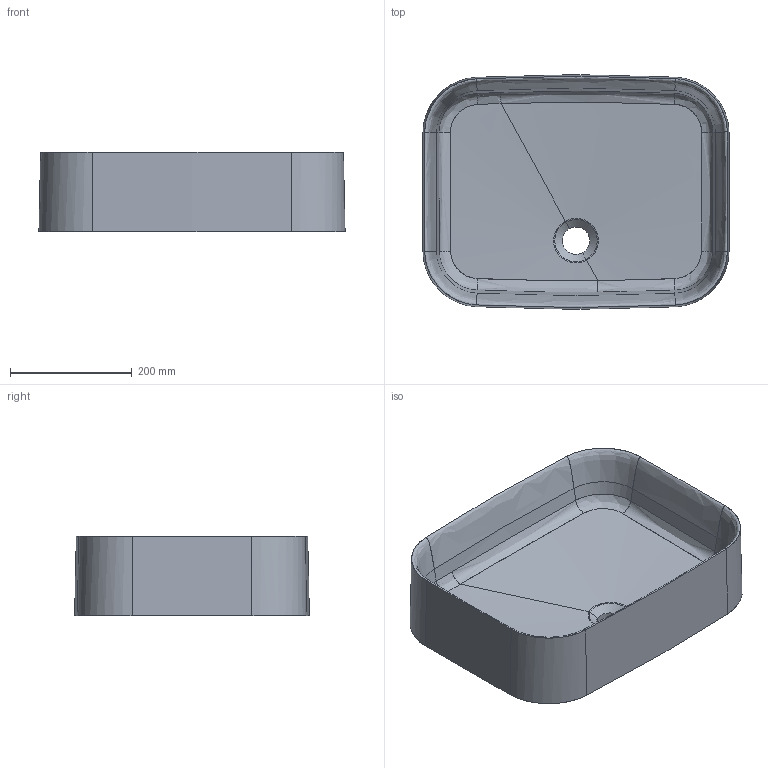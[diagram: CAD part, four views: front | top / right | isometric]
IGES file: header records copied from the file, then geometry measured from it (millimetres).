
Start section: START RECORD GO HERE.
Global section: file name: 3D ART 8127 PIAVE.igs; native system: DASSAULT SYSTEMES CATIA V5 R19 - www.3ds.com; preprocessor: CATIA Version 5 Release 19 SP 5 ; author: Luca; organization: DESKTOP-V7SON24; date: 20200901.092359; units: millimetre
Bounding box: 502.76 x 385.45 x 130.18 mm (x, y, z)
Surface area: 708806.5 mm2 (no closed solid volume)
Topology: 0 solids, 0 shells, 110 faces, 496 edges, 496 vertices
Faces by surface type: bspline 88, revolution 18, plane 4
